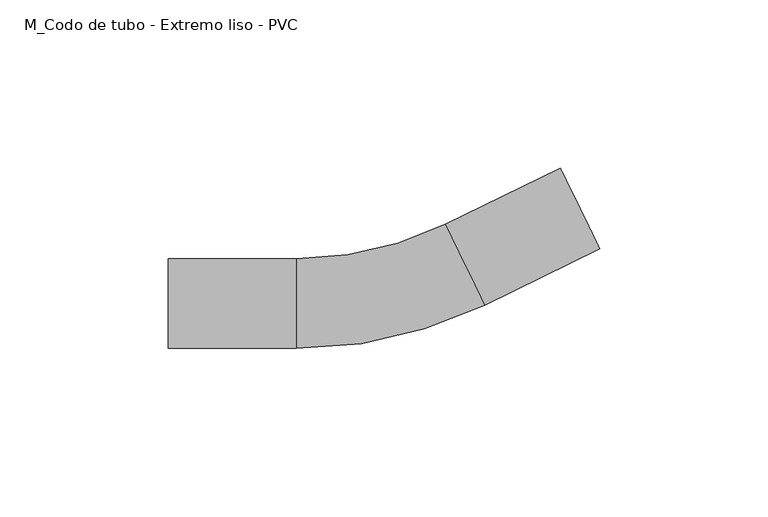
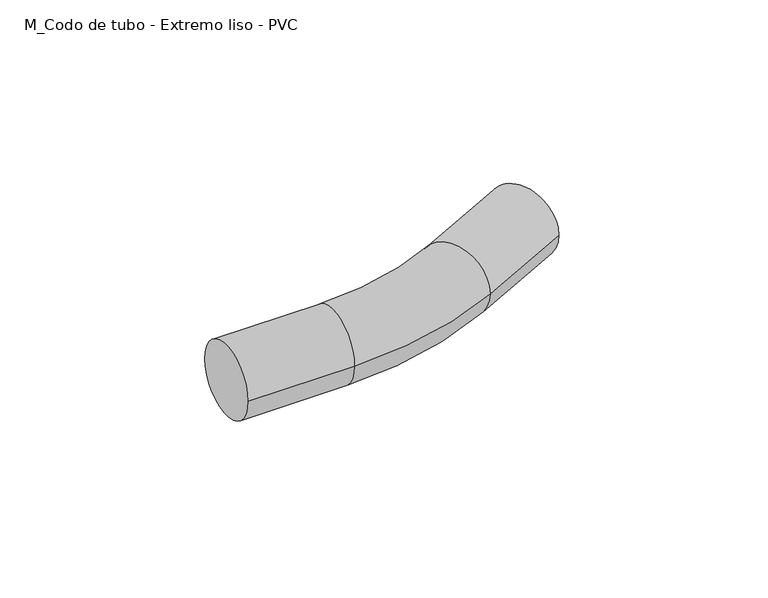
"""IFC4 building model written with IfcOpenShell, lengths in millimetres: cable carrier fitting geometry, M_Codo de tubo - Extremo liso - PVC : CODO ILUMINACION."""

from ifc_helpers import new_model, si_unit, point, frame, origin, place, context, project, spatial, circle_curve, ellipse_curve, trimmed, source, transform, mapped, element, save
from ifc_brep_helpers import plane_surface, cylinder_surface, revolved_surface, advanced_brep


def m_codo_de_tubo_extremo_liso_pvc_199f3936(model_context):
    return source(origin(), model_context, "Body", "AdvancedBrep", [
        advanced_brep(
        [(-64.4882342, -13.335, 0.0), (-64.4882342, 13.335, 0.0), (-26.3882342, -13.335, 0.0), (-26.3882342, 13.335, 0.0), (17.8719086, 23.5532591, 0.0), (29.5632671, -0.4175781, 0.0), (63.8073202, 16.2843626, 0.0), (52.1159618, 40.2551998, 0.0)],
        [
            (0, 1, circle_curve(frame((-64.4882342, 0.0, 0.0), z_axis=(-1.0, 0.0, 0.0), x_axis=(0.0, 1.0, 0.0)), 13.335)),
            (1, 0, circle_curve(frame((-64.4882342, 0.0, 0.0), z_axis=(-1.0, 0.0, 0.0), x_axis=(0.0, 1.0, 0.0)), 13.335)),
            (0, 2),
            (2, 3, circle_curve(frame((-26.3882342, 0.0, 0.0), z_axis=(-1.0, 0.0, 0.0), x_axis=(0.0, 1.0, 0.0)), 13.335)),
            (3, 1),
            (3, 2, circle_curve(frame((-26.3882342, 0.0, 0.0), z_axis=(-1.0, 0.0, 0.0), x_axis=(0.0, 1.0, 0.0)), 13.335)),
            (4, 3, circle_curve(frame((-26.3882342, 114.3, 0.0), z_axis=(0.0, 0.0, -1.0), x_axis=(0.0, -1.0, 0.0)), 100.965)),
            (2, 5, circle_curve(frame((-26.3882342, 114.3, 0.0), z_axis=(0.0, 0.0, 1.0), x_axis=(0.0, -1.0, 0.0)), 127.635)),
            (5, 4, circle_curve(frame((23.7175878, 11.5678405, 0.0), z_axis=(-0.8987940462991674, -0.43837114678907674, 0.0), x_axis=(-0.43837114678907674, 0.8987940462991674, 0.0)), 13.335)),
            (4, 5, circle_curve(frame((23.7175878, 11.5678405, 0.0), z_axis=(-0.8987940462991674, -0.43837114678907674, 0.0), x_axis=(-0.43837114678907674, 0.8987940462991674, 0.0)), 13.335)),
            (6, 7, circle_curve(frame((57.961641, 28.2697812, 0.0), z_axis=(0.8987940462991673, 0.43837114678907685, 0.0), x_axis=(-0.43837114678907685, 0.8987940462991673, 0.0)), 13.335)),
            (7, 6, circle_curve(frame((57.961641, 28.2697812, 0.0), z_axis=(0.8987940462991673, 0.43837114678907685, 0.0), x_axis=(-0.43837114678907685, 0.8987940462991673, 0.0)), 13.335)),
            (5, 6),
            (7, 4),
        ],
        [
            plane_surface(frame((-64.4882342, 0.0, 0.0), z_axis=(-1.0, 0.0, 0.0), x_axis=(0.0, 0.0, 1.0))),
            cylinder_surface(frame((-64.4882342, 0.0, 0.0), z_axis=(-1.0, 0.0, 0.0), x_axis=(0.0, 1.0, 0.0)), 13.335),
            revolved_surface(trimmed(ellipse_curve(frame((-26.3882342, 0.0, 0.0), z_axis=(-1.0, 0.0, 0.0), x_axis=(0.0, 1.0, 0.0)), 13.335, 13.335), [point((-26.3882342, -13.335, 0.0))], [point((-26.3882342, 13.335, 0.0))], True, "CARTESIAN"), (-26.3882342, 114.3, 0.0), (0.0, 0.0, 1.0)),
            revolved_surface(trimmed(ellipse_curve(frame((-26.3882342, 0.0, 0.0), z_axis=(-1.0, 0.0, 0.0), x_axis=(0.0, 1.0, 0.0)), 13.335, 13.335), [point((-26.3882342, 13.335, 0.0))], [point((-26.3882342, -13.335, 0.0))], True, "CARTESIAN"), (-26.3882342, 114.3, 0.0), (0.0, 0.0, 1.0)),
            plane_surface(frame((57.961641, 28.2697812, 0.0), z_axis=(0.8987940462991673, 0.4383711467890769, 0.0), x_axis=(0.0, 0.0, 1.0))),
            cylinder_surface(frame((23.7175878, 11.5678405, 0.0), z_axis=(-0.8987940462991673, -0.43837114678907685, 0.0), x_axis=(-0.43837114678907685, 0.8987940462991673, 0.0)), 13.335),
        ],
        [
            (0, [[1, 2]]),
            (1, [[-1, 3, 4, 5]]),
            (1, [[-2, -5, 6, -3]]),
            (2, [[7, -4, 8, 9]]),
            (3, [[-8, -6, -7, 10]]),
            (4, [[11, 12]]),
            (5, [[-9, 13, -12, 14]]),
            (5, [[-10, -14, -11, -13]]),
        ],
    ),
    ])


if __name__ == "__main__":
    model = new_model("IFC4")
    model_context = context("Model", 3, world=origin())
    ifc_project = project(units=[si_unit("LENGTHUNIT", "METRE", prefix="MILLI")], contexts=[model_context])
    site = spatial("IfcSite", under=ifc_project)
    building = spatial("IfcBuilding", under=site)
    placement = place(None, origin())
    m_codo_de_tubo_extremo_liso_pvc_shape = m_codo_de_tubo_extremo_liso_pvc_199f3936(model_context)
    element("IfcCableCarrierFitting", 1, ObjectType="M_Codo de tubo - Extremo liso - PVC : CODO ILUMINACION", at=placement, inside=building, context=model_context, shape_type="MappedRepresentation", body=[
        mapped(m_codo_de_tubo_extremo_liso_pvc_shape, transform((0.0, 0.0, 0.0), x_axis=(1.0, 0.0, 0.0), y_axis=(0.0, 1.0, 0.0), z_axis=(0.0, 0.0, 1.0))),
    ])
    save(model, "model.ifc")
